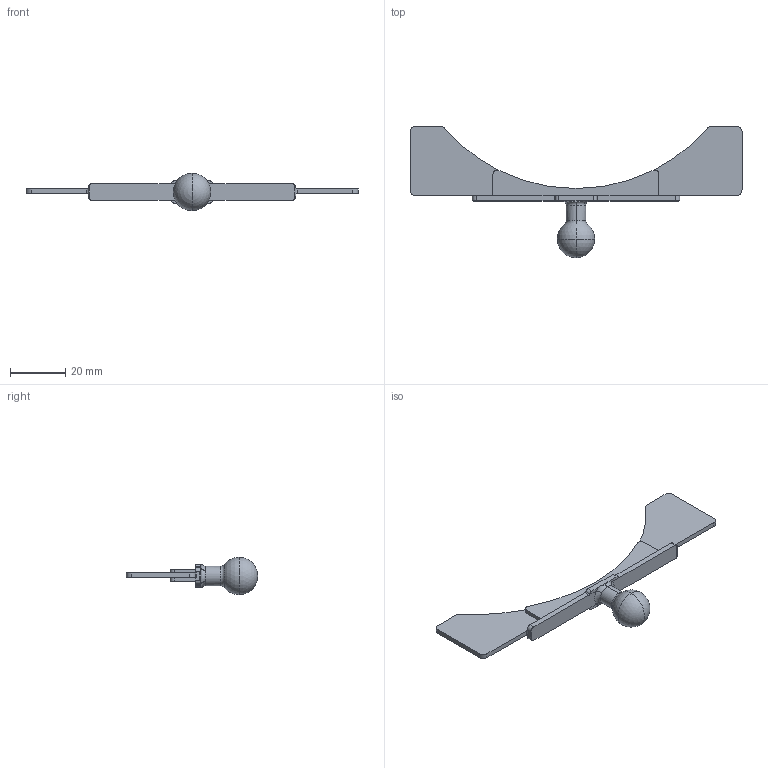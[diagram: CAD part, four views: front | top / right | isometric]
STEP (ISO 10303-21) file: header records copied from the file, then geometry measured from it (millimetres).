
FILE_DESCRIPTION(/* description */ ('VariCAD 2018-1.03 AP-214'),/* implementation_level */ '2;1');
FILE_NAME(/* name */ 'CDTray175.stp',/* time_stamp */ '2018-05-23T08:48:44+01:00',/* author */ (''),/* organization */ (''),/* preprocessor_version */ 'VariCAD 2018-1.03',/* originating_system */ 'VariCAD 2018-1.03; kernel version (20130303)',/* authorisation */ '');
FILE_SCHEMA(('AUTOMOTIVE_DESIGN'));
Length unit declared in the file: millimetre
Products named in the file (2): CDTray175
Assembly tree (1 placements, depth 2):
  CDTray175
    (unnamed)
Bounding box: 120 x 47.5 x 13.5 mm (x, y, z)
Volume: 5974.2 mm3; surface area: 5232.3 mm2
Topology: 1 solids, 1 shells, 80 faces, 219 edges, 139 vertices
Faces by surface type: plane 38, cylinder 30, torus 8, sphere 4
Entity records: 2653 total; most frequent: CARTESIAN_POINT 540, DIRECTION 455, ORIENTED_EDGE 434, EDGE_CURVE 217, AXIS2_PLACEMENT_3D 170, VERTEX_POINT 139, LINE 115, VECTOR 115
